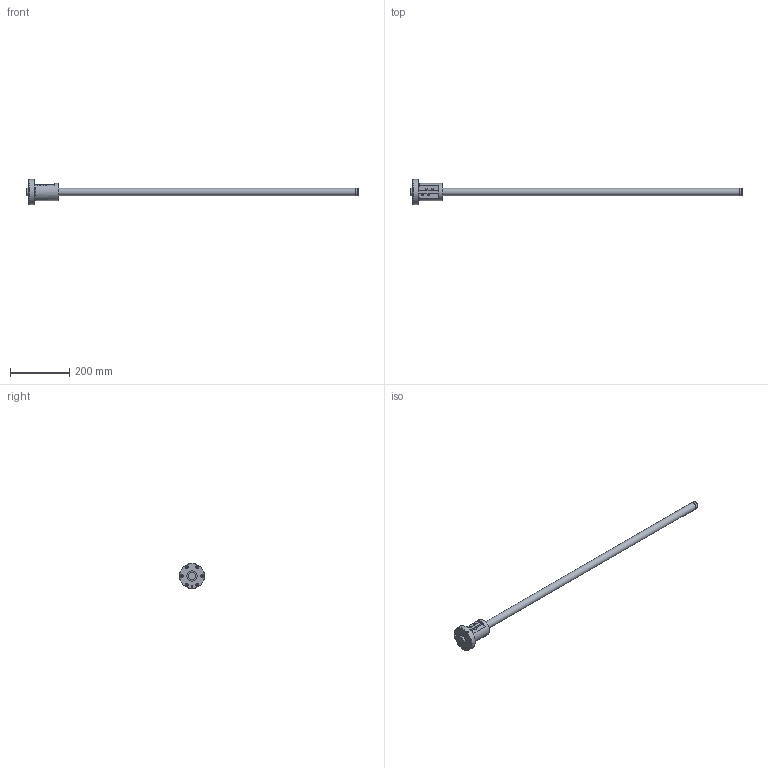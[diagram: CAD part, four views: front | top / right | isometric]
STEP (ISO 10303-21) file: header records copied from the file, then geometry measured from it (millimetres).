
FILE_DESCRIPTION( ( 'STEP AP203' ), ' ' );
FILE_NAME( 'p:/temp/worker_49/1856_1980/app_90_12018011811251158043346818fa3fd_000000_00_00_000000/format_0/BIF2510A-5RRG0+1120LC1_10000.stp', '2018-01-18T10:25:12', ( '' ), ( '' ), ' ', 'PARTsolutions', ' ' );
FILE_SCHEMA( ( 'CONFIG_CONTROL_DESIGN' ) );
Length unit declared in the file: millimetre
Products named in the file (3): BIF2510A-5RRG0+1120LC1_10000; _BIF 2510A-5RR1000500 Shaft; _BIF 2510A-5RR Nut
Assembly tree (2 placements, depth 2):
  BIF2510A-5RRG0+1120LC1_10000
    _BIF 2510A-5RR1000500 Shaft
    _BIF 2510A-5RR Nut
Bounding box: 1120 x 85 x 85 mm (x, y, z)
Volume: 791551.1 mm3; surface area: 131483.1 mm2
Topology: 2 solids, 2 shells, 81 faces, 174 edges, 110 vertices
Faces by surface type: cylinder 39, plane 31, cone 7, torus 4
Full cylindrical faces by diameter (mm): 4.25 x2, 4.917 x1, 5.4 x4, 6.6 x6, 11 x6, 24.5 x2, 25 x4, 34.8 x2, 58 x1, 85 x1
Entity records: 2444 total; most frequent: CARTESIAN_POINT 684, DIRECTION 372, ORIENTED_EDGE 252, AXIS2_PLACEMENT_3D 170, EDGE_LOOP 156, EDGE_CURVE 126, FACE_OUTER_BOUND 110, VERTEX_POINT 100
